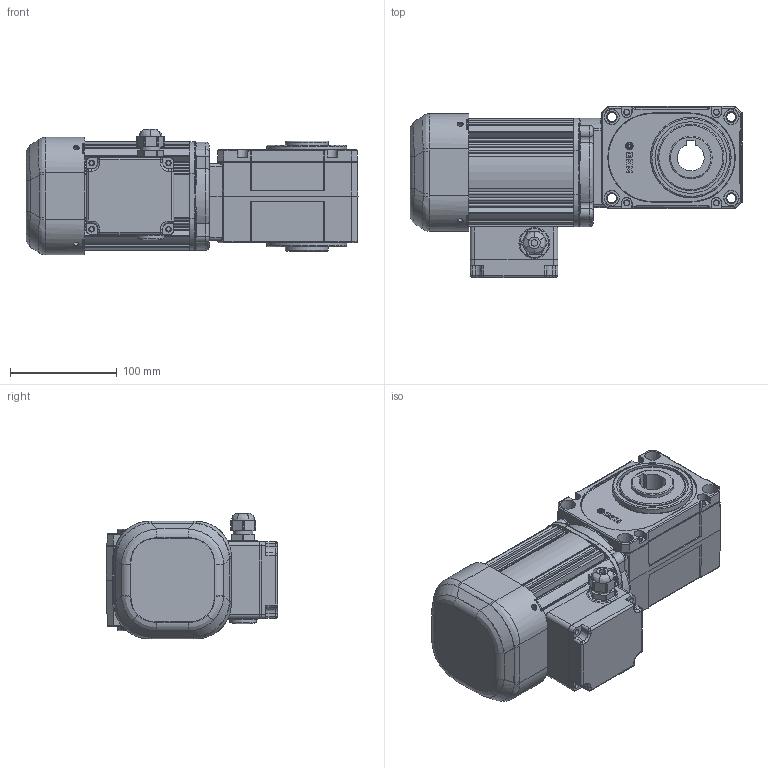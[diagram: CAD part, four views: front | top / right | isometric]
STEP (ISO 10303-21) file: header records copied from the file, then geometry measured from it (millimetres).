
FILE_DESCRIPTION (( 'STEP AP203' ), '1' );
FILE_NAME ('DSY25B-(40~60)B010-¤±.STEP', '2022-08-08T06:41:06', ( '' ), ( '' ), 'SwSTEP 2.0', 'SolidWorks 2018', '' );
FILE_SCHEMA (( 'CONFIG_CONTROL_DESIGN' ));
Length unit declared in the file: millimetre
Products named in the file (15): 欽濠夢蝶 ж 熱薑; 0.1kW 粽溯檜觼 の醴幗; Щ滓衛綰_ル遽; DSY25B-(40~60)B010-仃; DKM 窜磊措 惑何荐沥档(20200120); 0.1KW 粽溯檜觼 賅攪; 欽濠夢蝶 ASS''Y; CASE-DSY02L-DC; 欽濠夢蝶 葆偃; DKM 0.2kW 菴醴幗 陛奢紫(20200128); 95 牢惯橇饭烙 弥辆啊傍档(20200128); 堅鼠ぬ韁-鼻; DSY02L 馬樓晦; COVER-DSY02L-DC; 堅鼠ぬ韁-ж
Assembly tree (14 placements, depth 3):
  DSY25B-(40~60)B010-仃
    0.1KW 粽溯檜觼 賅攪
      95 牢惯橇饭烙 弥辆啊傍档(20200128)
      DKM 0.2kW 菴醴幗 陛奢紫(20200128)
      0.1kW 粽溯檜觼 の醴幗
    欽濠夢蝶 ASS''Y
      欽濠夢蝶 ж 熱薑
      Щ滓衛綰_ル遽
      欽濠夢蝶 葆偃
      堅鼠ぬ韁-鼻
      堅鼠ぬ韁-ж
      DKM 窜磊措 惑何荐沥档(20200120)
    DSY02L 馬樓晦
      CASE-DSY02L-DC
      COVER-DSY02L-DC
Bounding box: 311 x 160.35 x 117.66 mm (x, y, z)
Volume: 2439126 mm3; surface area: 356308.5 mm2
Topology: 11 solids, 12 shells, 1393 faces, 3543 edges, 2211 vertices
Faces by surface type: plane 570, cylinder 503, bspline 214, torus 71, cone 31, sphere 4
Full cylindrical faces by diameter (mm): 2.514 x2, 3.318 x2, 3.5 x4, 4.2 x8, 4.5 x4, 5 x12, 5.3 x12, 5.5 x4, 6 x1, 8.5 x4, 10 x8, 10.8 x1, 14 x4, 16.5 x1, 18 x2, 19 x1, 20 x2, 22 x1, 25 x1, 28 x1, 40 x3, 62 x2, 67 x2
Entity records: 50881 total; most frequent: CARTESIAN_POINT 17315, ORIENTED_EDGE 6712, DIRECTION 6388, EDGE_CURVE 3356, AXIS2_PLACEMENT_3D 2303, VERTEX_POINT 2182, LINE 1782, VECTOR 1782
